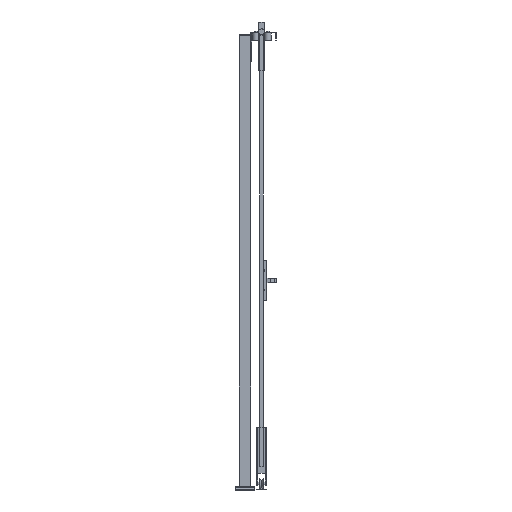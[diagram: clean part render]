
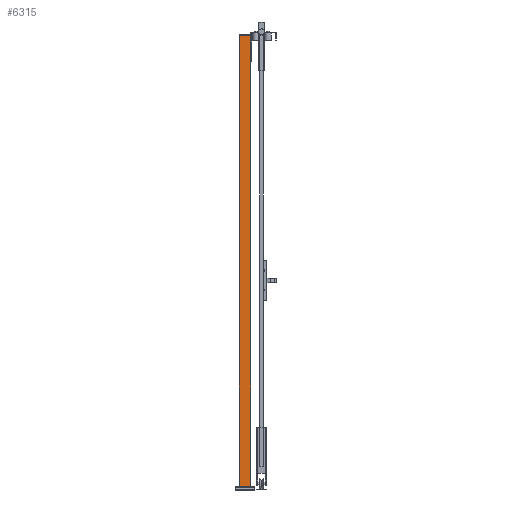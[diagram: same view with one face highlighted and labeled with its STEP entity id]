
A CAD part, left-side view. The second image highlights one B-rep face of the part: STEP entity #6315.
In plain terms, the highlighted planar face has unit normal (-1, 0, 0) as drawn and (0, 1, 0) by its records, which use the part's own axes.
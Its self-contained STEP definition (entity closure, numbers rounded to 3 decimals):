
#665=FACE_OUTER_BOUND('',#1117,.T.);
#1117=EDGE_LOOP('',(#3895,#3896,#3897,#3898));
#1634=VERTEX_POINT('',#12561);
#1635=VERTEX_POINT('',#12563);
#1637=VERTEX_POINT('',#12569);
#1640=VERTEX_POINT('',#12574);
#2558=EDGE_CURVE('',#1634,#1635,#7198,.T.);
#2564=EDGE_CURVE('',#1640,#1637,#7204,.T.);
#2567=EDGE_CURVE('',#1635,#1640,#7207,.T.);
#2568=EDGE_CURVE('',#1634,#1637,#7208,.T.);
#3895=ORIENTED_EDGE('',*,*,#2568,.T.);
#3896=ORIENTED_EDGE('',*,*,#2564,.F.);
#3897=ORIENTED_EDGE('',*,*,#2567,.F.);
#3898=ORIENTED_EDGE('',*,*,#2558,.F.);
#5927=PLANE('',#9076);
#6315=ADVANCED_FACE('',(#665),#5927,.F.);
#7198=LINE('',#12564,#8188);
#7204=LINE('',#12576,#8194);
#7207=LINE('',#12581,#8197);
#7208=LINE('',#12583,#8198);
#8188=VECTOR('',#10001,1.);
#8194=VECTOR('',#10009,1.);
#8197=VECTOR('',#10016,1.);
#8198=VECTOR('',#10019,1.);
#9076=AXIS2_PLACEMENT_3D('',#12582,#10017,#10018);
#10001=DIRECTION('',(-1.,0.,0.));
#10009=DIRECTION('',(1.,0.,0.));
#10016=DIRECTION('',(0.,0.,-1.));
#10017=DIRECTION('center_axis',(0.,-1.,0.));
#10018=DIRECTION('ref_axis',(0.,0.,-1.));
#10019=DIRECTION('',(0.,0.,-1.));
#12561=CARTESIAN_POINT('',(30.,30.,2320.));
#12563=CARTESIAN_POINT('',(-30.,30.,2320.));
#12564=CARTESIAN_POINT('',(0.,30.,2320.));
#12569=CARTESIAN_POINT('',(30.,30.,20.));
#12574=CARTESIAN_POINT('',(-30.,30.,20.));
#12576=CARTESIAN_POINT('',(0.,30.,20.));
#12581=CARTESIAN_POINT('',(-30.,30.,1170.));
#12582=CARTESIAN_POINT('Origin',(0.,30.,
1170.));
#12583=CARTESIAN_POINT('',(30.,30.,1170.));
